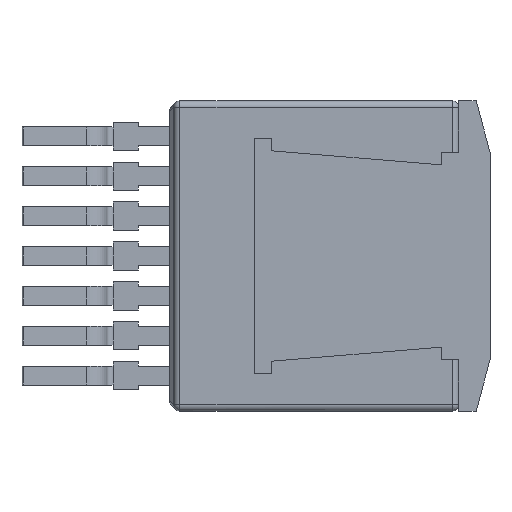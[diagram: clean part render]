
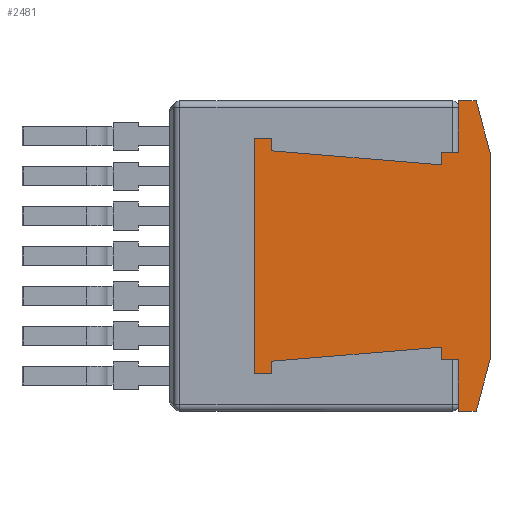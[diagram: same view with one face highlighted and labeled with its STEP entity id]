
A CAD part, front view. The second image highlights one B-rep face of the part: STEP entity #2481.
In plain terms, the highlighted planar face has unit normal (0, -1, 0).
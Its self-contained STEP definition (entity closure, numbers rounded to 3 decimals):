
#90 = CARTESIAN_POINT ( 'NONE',  ( 0.5, 0., 3.35 ) ) ;
#117 = LINE ( 'NONE', #2920, #5570 ) ;
#127 = VECTOR ( 'NONE', #5389, 1000. ) ;
#138 = DIRECTION ( 'NONE',  ( 0.997, 0., -0.083 ) ) ;
#161 = ORIENTED_EDGE ( 'NONE', *, *, #5300, .F. ) ;
#338 = CARTESIAN_POINT ( 'NONE',  ( 7.008, 0., 4.95 ) ) ;
#405 = CARTESIAN_POINT ( 'NONE',  ( 6.45, 0., 0. ) ) ;
#414 = EDGE_CURVE ( 'NONE', #6502, #1701, #2612, .T. ) ;
#469 = LINE ( 'NONE', #1496, #2869 ) ;
#490 = DIRECTION ( 'NONE',  ( 0., 0., -1. ) ) ;
#571 = VERTEX_POINT ( 'NONE', #3820 ) ;
#695 = VERTEX_POINT ( 'NONE', #6076 ) ;
#725 = LINE ( 'NONE', #2157, #3124 ) ;
#735 = LINE ( 'NONE', #2973, #2213 ) ;
#804 = AXIS2_PLACEMENT_3D ( 'NONE', #5576, #5618, #2464 ) ;
#872 = ORIENTED_EDGE ( 'NONE', *, *, #5894, .T. ) ;
#875 = PLANE ( 'NONE',  #804 ) ;
#912 = ORIENTED_EDGE ( 'NONE', *, *, #2673, .F. ) ;
#937 = CARTESIAN_POINT ( 'NONE',  ( -0.05, 0., 3.75 ) ) ;
#947 = VECTOR ( 'NONE', #138, 1000. ) ;
#949 = VERTEX_POINT ( 'NONE', #3050 ) ;
#980 = VECTOR ( 'NONE', #1638, 1000. ) ;
#1008 = CARTESIAN_POINT ( 'NONE',  ( 6.45, 0., -3.3 ) ) ;
#1044 = LINE ( 'NONE', #1346, #4827 ) ;
#1169 = CARTESIAN_POINT ( 'NONE',  ( 5.9, 0., -3.3 ) ) ;
#1175 = DIRECTION ( 'NONE',  ( 0., 0., 1. ) ) ;
#1216 = EDGE_LOOP ( 'NONE', ( #5376, #6321, #1503, #872, #161, #6613, #3996, #2125, #2418, #6760, #3701, #1721, #1594, #912, #4295, #5130, #1947, #5110 ) ) ;
#1346 = CARTESIAN_POINT ( 'NONE',  ( 0., 0., -3.3 ) ) ;
#1399 = VERTEX_POINT ( 'NONE', #6237 ) ;
#1457 = DIRECTION ( 'NONE',  ( -1., 0., 0. ) ) ;
#1487 = DIRECTION ( 'NONE',  ( 0., 0., 1. ) ) ;
#1496 = CARTESIAN_POINT ( 'NONE',  ( -0.05, 0., 0. ) ) ;
#1503 = ORIENTED_EDGE ( 'NONE', *, *, #1838, .T. ) ;
#1522 = VERTEX_POINT ( 'NONE', #1169 ) ;
#1594 = ORIENTED_EDGE ( 'NONE', *, *, #5948, .F. ) ;
#1631 = VECTOR ( 'NONE', #6291, 1000. ) ;
#1638 = DIRECTION ( 'NONE',  ( 0., 0., -1. ) ) ;
#1654 = CARTESIAN_POINT ( 'NONE',  ( 0., 0., -3.75 ) ) ;
#1699 = EDGE_CURVE ( 'NONE', #3775, #1701, #4517, .T. ) ;
#1701 = VERTEX_POINT ( 'NONE', #6177 ) ;
#1721 = ORIENTED_EDGE ( 'NONE', *, *, #2859, .T. ) ;
#1801 = VERTEX_POINT ( 'NONE', #3030 ) ;
#1838 = EDGE_CURVE ( 'NONE', #571, #4702, #2959, .T. ) ;
#1947 = ORIENTED_EDGE ( 'NONE', *, *, #6400, .T. ) ;
#1990 = CARTESIAN_POINT ( 'NONE',  ( 5.9, 0., 0. ) ) ;
#1992 = CARTESIAN_POINT ( 'NONE',  ( 7.45, 0., 0. ) ) ;
#2004 = EDGE_CURVE ( 'NONE', #3325, #6502, #3288, .T. ) ;
#2061 = CARTESIAN_POINT ( 'NONE',  ( 0.5, 0., 0. ) ) ;
#2125 = ORIENTED_EDGE ( 'NONE', *, *, #2004, .F. ) ;
#2157 = CARTESIAN_POINT ( 'NONE',  ( 6.45, 0., 0. ) ) ;
#2192 = CARTESIAN_POINT ( 'NONE',  ( 6.45, 0., 3.3 ) ) ;
#2201 = VECTOR ( 'NONE', #5969, 1000. ) ;
#2213 = VECTOR ( 'NONE', #6203, 1000. ) ;
#2282 = EDGE_CURVE ( 'NONE', #3952, #571, #4342, .T. ) ;
#2418 = ORIENTED_EDGE ( 'NONE', *, *, #3631, .F. ) ;
#2439 = LINE ( 'NONE', #1654, #4238 ) ;
#2464 = DIRECTION ( 'NONE',  ( 1., 0., 0. ) ) ;
#2481 = ADVANCED_FACE ( 'NONE', ( #6738 ), #875, .F. ) ;
#2490 = DIRECTION ( 'NONE',  ( 0., 0., 1. ) ) ;
#2571 = DIRECTION ( 'NONE',  ( 0.259, 0., 0.966 ) ) ;
#2612 = LINE ( 'NONE', #405, #3850 ) ;
#2673 = EDGE_CURVE ( 'NONE', #1801, #3088, #2439, .T. ) ;
#2776 = CARTESIAN_POINT ( 'NONE',  ( 5.9, 0., 3.3 ) ) ;
#2858 = DIRECTION ( 'NONE',  ( 1., 0., 0. ) ) ;
#2859 = EDGE_CURVE ( 'NONE', #695, #3061, #117, .T. ) ;
#2869 = VECTOR ( 'NONE', #5194, 1000. ) ;
#2920 = CARTESIAN_POINT ( 'NONE',  ( 0., 0., 3.75 ) ) ;
#2959 = LINE ( 'NONE', #5169, #6752 ) ;
#2973 = CARTESIAN_POINT ( 'NONE',  ( 7.776, 0., 2.084 ) ) ;
#3030 = CARTESIAN_POINT ( 'NONE',  ( 0.5, 0., -3.75 ) ) ;
#3050 = CARTESIAN_POINT ( 'NONE',  ( 5.9, 0., 2.9 ) ) ;
#3061 = VERTEX_POINT ( 'NONE', #937 ) ;
#3088 = VERTEX_POINT ( 'NONE', #3097 ) ;
#3097 = CARTESIAN_POINT ( 'NONE',  ( -0.05, 0., -3.75 ) ) ;
#3124 = VECTOR ( 'NONE', #5317, 1000. ) ;
#3288 = LINE ( 'NONE', #4138, #1631 ) ;
#3325 = VERTEX_POINT ( 'NONE', #2776 ) ;
#3332 = VECTOR ( 'NONE', #3555, 1000. ) ;
#3339 = DIRECTION ( 'NONE',  ( -1., 0., 0. ) ) ;
#3379 = VERTEX_POINT ( 'NONE', #5939 ) ;
#3391 = EDGE_CURVE ( 'NONE', #5605, #949, #6714, .T. ) ;
#3428 = CARTESIAN_POINT ( 'NONE',  ( 0., 0., 4.95 ) ) ;
#3516 = LINE ( 'NONE', #4836, #4752 ) ;
#3555 = DIRECTION ( 'NONE',  ( 0., 0., 1. ) ) ;
#3564 = CARTESIAN_POINT ( 'NONE',  ( 6.45, 0., -4.95 ) ) ;
#3631 = EDGE_CURVE ( 'NONE', #949, #3325, #4969, .T. ) ;
#3700 = VECTOR ( 'NONE', #1457, 1000. ) ;
#3701 = ORIENTED_EDGE ( 'NONE', *, *, #6007, .F. ) ;
#3775 = VERTEX_POINT ( 'NONE', #338 ) ;
#3820 = CARTESIAN_POINT ( 'NONE',  ( 7.008, 0., -4.95 ) ) ;
#3850 = VECTOR ( 'NONE', #1487, 1000. ) ;
#3853 = LINE ( 'NONE', #6525, #127 ) ;
#3857 = CARTESIAN_POINT ( 'NONE',  ( 0., 0., -4.95 ) ) ;
#3952 = VERTEX_POINT ( 'NONE', #3564 ) ;
#3961 = CARTESIAN_POINT ( 'NONE',  ( 7.45, 0., -3.3 ) ) ;
#3996 = ORIENTED_EDGE ( 'NONE', *, *, #414, .F. ) ;
#4075 = VECTOR ( 'NONE', #490, 1000. ) ;
#4090 = VECTOR ( 'NONE', #2490, 1000. ) ;
#4138 = CARTESIAN_POINT ( 'NONE',  ( 0., 0., 3.3 ) ) ;
#4238 = VECTOR ( 'NONE', #3339, 1000. ) ;
#4295 = ORIENTED_EDGE ( 'NONE', *, *, #4564, .T. ) ;
#4342 = LINE ( 'NONE', #3857, #2201 ) ;
#4358 = CARTESIAN_POINT ( 'NONE',  ( 0.281, 0., 3.368 ) ) ;
#4423 = LINE ( 'NONE', #2061, #980 ) ;
#4517 = LINE ( 'NONE', #3428, #3700 ) ;
#4521 = EDGE_CURVE ( 'NONE', #3379, #6560, #3853, .T. ) ;
#4564 = EDGE_CURVE ( 'NONE', #1801, #3379, #3516, .T. ) ;
#4702 = VERTEX_POINT ( 'NONE', #3961 ) ;
#4723 = EDGE_CURVE ( 'NONE', #1522, #6785, #1044, .T. ) ;
#4752 = VECTOR ( 'NONE', #1175, 1000. ) ;
#4827 = VECTOR ( 'NONE', #2858, 1000. ) ;
#4836 = CARTESIAN_POINT ( 'NONE',  ( 0.5, 0., 0. ) ) ;
#4969 = LINE ( 'NONE', #1990, #3332 ) ;
#4975 = CARTESIAN_POINT ( 'NONE',  ( 5.9, 0., -2.9 ) ) ;
#5110 = ORIENTED_EDGE ( 'NONE', *, *, #4723, .T. ) ;
#5130 = ORIENTED_EDGE ( 'NONE', *, *, #4521, .T. ) ;
#5169 = CARTESIAN_POINT ( 'NONE',  ( 7.776, 0., -2.084 ) ) ;
#5194 = DIRECTION ( 'NONE',  ( 0., 0., 1. ) ) ;
#5300 = EDGE_CURVE ( 'NONE', #3775, #1399, #735, .T. ) ;
#5317 = DIRECTION ( 'NONE',  ( 0., 0., 1. ) ) ;
#5344 = LINE ( 'NONE', #1992, #4090 ) ;
#5376 = ORIENTED_EDGE ( 'NONE', *, *, #6134, .F. ) ;
#5389 = DIRECTION ( 'NONE',  ( 0.997, 0., 0.083 ) ) ;
#5570 = VECTOR ( 'NONE', #6614, 1000. ) ;
#5576 = CARTESIAN_POINT ( 'NONE',  ( 0., 0., 0. ) ) ;
#5605 = VERTEX_POINT ( 'NONE', #90 ) ;
#5618 = DIRECTION ( 'NONE',  ( 0., 1., 0. ) ) ;
#5760 = CARTESIAN_POINT ( 'NONE',  ( 5.9, 0., 0. ) ) ;
#5894 = EDGE_CURVE ( 'NONE', #4702, #1399, #5344, .T. ) ;
#5939 = CARTESIAN_POINT ( 'NONE',  ( 0.5, 0., -3.35 ) ) ;
#5948 = EDGE_CURVE ( 'NONE', #3088, #3061, #469, .T. ) ;
#5969 = DIRECTION ( 'NONE',  ( 1., 0., 0. ) ) ;
#6007 = EDGE_CURVE ( 'NONE', #695, #5605, #4423, .T. ) ;
#6076 = CARTESIAN_POINT ( 'NONE',  ( 0.5, 0., 3.75 ) ) ;
#6134 = EDGE_CURVE ( 'NONE', #3952, #6785, #725, .T. ) ;
#6177 = CARTESIAN_POINT ( 'NONE',  ( 6.45, 0., 4.95 ) ) ;
#6203 = DIRECTION ( 'NONE',  ( 0.259, 0., -0.966 ) ) ;
#6237 = CARTESIAN_POINT ( 'NONE',  ( 7.45, 0., 3.3 ) ) ;
#6291 = DIRECTION ( 'NONE',  ( 1., 0., 0. ) ) ;
#6321 = ORIENTED_EDGE ( 'NONE', *, *, #2282, .T. ) ;
#6400 = EDGE_CURVE ( 'NONE', #6560, #1522, #6645, .T. ) ;
#6502 = VERTEX_POINT ( 'NONE', #2192 ) ;
#6525 = CARTESIAN_POINT ( 'NONE',  ( 0.281, 0., -3.368 ) ) ;
#6560 = VERTEX_POINT ( 'NONE', #4975 ) ;
#6613 = ORIENTED_EDGE ( 'NONE', *, *, #1699, .T. ) ;
#6614 = DIRECTION ( 'NONE',  ( -1., 0., 0. ) ) ;
#6645 = LINE ( 'NONE', #5760, #4075 ) ;
#6714 = LINE ( 'NONE', #4358, #947 ) ;
#6738 = FACE_OUTER_BOUND ( 'NONE', #1216, .T. ) ;
#6752 = VECTOR ( 'NONE', #2571, 1000. ) ;
#6760 = ORIENTED_EDGE ( 'NONE', *, *, #3391, .F. ) ;
#6785 = VERTEX_POINT ( 'NONE', #1008 ) ;
